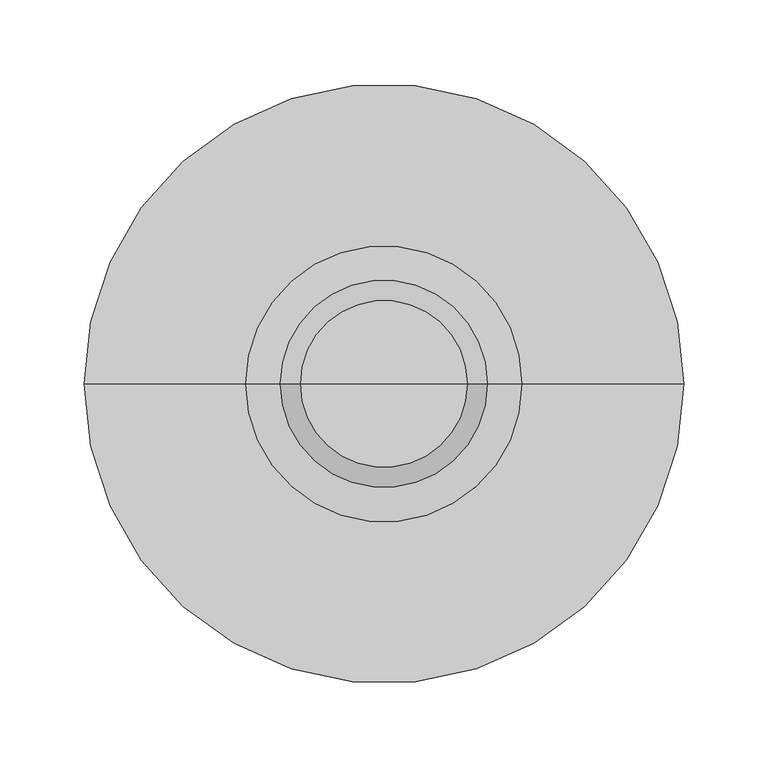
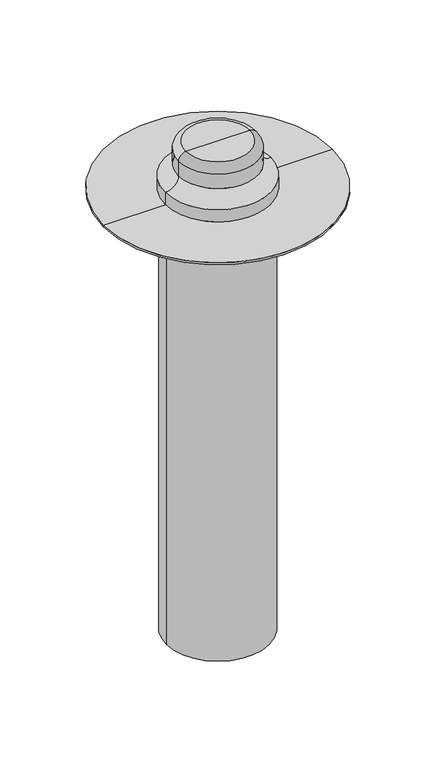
"""IFC4 building model written with IfcOpenShell, lengths in millimetres: flow terminal geometry, BIMLIB_Воронка_Кровельная_Fachmann_VM : 160х720."""

from ifc_helpers import new_model, si_unit, point, frame, origin, origin_with_axes, place, context, project, spatial, polyline, circle_curve, ellipse_curve, trimmed, source, transform, mapped, element, save
from ifc_brep_helpers import plane_surface, cylinder_surface, revolved_surface, advanced_brep


def flow_terminal_46c1b343(model_context):
    return source(origin(), model_context, "Body", "AdvancedBrep", [
        advanced_brep(
        [(80.0, 0.0, -720.0), (-80.0, 0.0, -720.0), (-80.0, 0.0, -57.0), (80.0, 0.0, -57.0), (-113.0, 0.0, -9.0), (113.0, 0.0, -9.0), (113.0, 0.0, -32.0), (-113.0, 0.0, -32.0), (0.0, 0.0, 0.0), (138.0, 0.0, 0.0), (-138.0, 0.0, 0.0), (-90.0, 0.0, -32.0), (90.0, 0.0, -32.0), (90.0, 0.0, -40.0), (-90.0, 0.0, -40.0)],
        [
            (0, 1, circle_curve(frame((0.0, 0.0, -720.0), z_axis=(0.0, 0.0, -1.0), x_axis=(-1.0, 0.0, 0.0)), 80.0)),
            (1, 0, circle_curve(frame((0.0, 0.0, -720.0), z_axis=(0.0, 0.0, -1.0), x_axis=(-1.0, 0.0, 0.0)), 80.0)),
            (1, 2),
            (2, 3, circle_curve(frame((0.0, 0.0, -57.0), z_axis=(0.0, 0.0, -1.0), x_axis=(-1.0, 0.0, 0.0)), 80.0)),
            (3, 0),
            (3, 2, circle_curve(frame((0.0, 0.0, -57.0), z_axis=(0.0, 0.0, -1.0), x_axis=(-1.0, 0.0, 0.0)), 80.0)),
            (4, 5, circle_curve(frame((0.0, 0.0, -9.0), z_axis=(0.0, 0.0, -1.0), x_axis=(1.0, 0.0, 0.0)), 113.0)),
            (5, 6),
            (6, 7, circle_curve(frame((0.0, 0.0, -32.0), z_axis=(0.0, 0.0, 1.0), x_axis=(1.0, 0.0, 0.0)), 113.0)),
            (7, 4),
            (5, 4, circle_curve(frame((0.0, 0.0, -9.0), z_axis=(0.0, 0.0, -1.0), x_axis=(1.0, 0.0, 0.0)), 113.0)),
            (7, 6, circle_curve(frame((0.0, 0.0, -32.0), z_axis=(0.0, 0.0, 1.0), x_axis=(1.0, 0.0, 0.0)), 113.0)),
            (8, 9),
            (9, 10, circle_curve(origin_with_axes(), 138.0)),
            (10, 8),
            (10, 9, circle_curve(origin_with_axes(), 138.0)),
            (4, 10),
            (9, 5),
            (11, 12, circle_curve(frame((0.0, 0.0, -32.0), z_axis=(0.0, 0.0, -1.0), x_axis=(1.0, 0.0, 0.0)), 90.0)),
            (12, 13),
            (13, 14, circle_curve(frame((0.0, 0.0, -40.0), z_axis=(0.0, 0.0, 1.0), x_axis=(1.0, 0.0, 0.0)), 90.0)),
            (14, 11),
            (12, 11, circle_curve(frame((0.0, 0.0, -32.0), z_axis=(0.0, 0.0, -1.0), x_axis=(1.0, 0.0, 0.0)), 90.0)),
            (14, 13, circle_curve(frame((0.0, 0.0, -40.0), z_axis=(0.0, 0.0, 1.0), x_axis=(1.0, 0.0, 0.0)), 90.0)),
            (6, 12),
            (11, 7),
            (13, 3),
            (2, 14),
        ],
        [
            plane_surface(frame((-80.0, 0.0, -720.0), z_axis=(0.0, 0.0, -1.0), x_axis=(0.0, 1.0, 0.0))),
            cylinder_surface(frame((0.0, 0.0, -720.0), z_axis=(0.0, 0.0, 1.0), x_axis=(-1.0, 0.0, 0.0)), 80.0),
            cylinder_surface(frame((0.0, 0.0, 159.0), z_axis=(0.0, 0.0, 1.0), x_axis=(1.0, 0.0, 0.0)), 113.0),
            plane_surface(origin_with_axes()),
            revolved_surface(polyline([(113.0, 0.0, -9.0), (138.0, 0.0, 0.0)]), (0.0, 0.0, 159.0), (0.0, 0.0, 1.0)),
            cylinder_surface(frame((0.0, 0.0, 159.0), z_axis=(0.0, 0.0, 1.0), x_axis=(1.0, 0.0, 0.0)), 90.0),
            plane_surface(frame((0.0, 0.0, -32.0), z_axis=(0.0, 0.0, -1.0), x_axis=(1.0, 0.0, 0.0))),
            revolved_surface(polyline([(80.0, 0.0, -57.0), (90.0, 0.0, -40.0)]), (0.0, 0.0, 159.0), (0.0, 0.0, 1.0)),
        ],
        [
            (0, [[1, 2]]),
            (1, [[-2, 3, 4, 5]]),
            (1, [[-1, -5, 6, -3]]),
            (2, [[7, 8, 9, 10]]),
            (2, [[-8, 11, -10, 12]]),
            (3, [[13, 14, 15]]),
            (3, [[-13, -15, 16]]),
            (4, [[-7, 17, -14, 18]]),
            (4, [[-11, -18, -16, -17]]),
            (5, [[19, 20, 21, 22]]),
            (5, [[-20, 23, -22, 24]]),
            (6, [[-9, 25, -19, 26]]),
            (6, [[-12, -26, -23, -25]]),
            (7, [[-21, 27, -4, 28]]),
            (7, [[-24, -28, -6, -27]]),
        ],
    ),
        advanced_brep(
        [(0.0, 0.0, 79.0), (49.5, 0.0, 79.0), (-49.5, 0.0, 79.0), (-178.0, 0.0, 0.0), (178.0, 0.0, 0.0), (0.0, 0.0, 0.0), (-178.0, 0.0, 3.0), (178.0, 0.0, 3.0), (-82.0, 0.0, 3.0), (82.0, 0.0, 3.0), (-61.5, 0.0, 67.0), (61.5, 0.0, 67.0), (61.5, 0.0, 43.5), (-61.5, 0.0, 43.5), (-82.0, 0.0, 23.0), (82.0, 0.0, 23.0)],
        [
            (0, 1),
            (1, 2, circle_curve(frame((0.0, 0.0, 79.0), z_axis=(0.0, 0.0, 1.0), x_axis=(1.0, 0.0, 0.0)), 49.5)),
            (2, 0),
            (2, 1, circle_curve(frame((0.0, 0.0, 79.0), z_axis=(0.0, 0.0, 1.0), x_axis=(1.0, 0.0, 0.0)), 49.5)),
            (3, 4, circle_curve(frame((0.0, 0.0, 0.0), z_axis=(0.0, 0.0, -1.0), x_axis=(1.0, 0.0, 0.0)), 178.0)),
            (4, 5),
            (5, 3),
            (4, 3, circle_curve(frame((0.0, 0.0, 0.0), z_axis=(0.0, 0.0, -1.0), x_axis=(1.0, 0.0, 0.0)), 178.0)),
            (6, 7, circle_curve(frame((0.0, 0.0, 3.0), z_axis=(0.0, 0.0, -1.0), x_axis=(1.0, 0.0, 0.0)), 178.0)),
            (7, 4),
            (3, 6),
            (7, 6, circle_curve(frame((0.0, 0.0, 3.0), z_axis=(0.0, 0.0, -1.0), x_axis=(1.0, 0.0, 0.0)), 178.0)),
            (8, 9, circle_curve(frame((0.0, 0.0, 3.0), z_axis=(0.0, 0.0, -1.0), x_axis=(1.0, 0.0, 0.0)), 82.0)),
            (9, 7),
            (6, 8),
            (9, 8, circle_curve(frame((0.0, 0.0, 3.0), z_axis=(0.0, 0.0, -1.0), x_axis=(1.0, 0.0, 0.0)), 82.0)),
            (10, 11, circle_curve(frame((0.0, 0.0, 67.0), z_axis=(0.0, 0.0, -1.0), x_axis=(1.0, 0.0, 0.0)), 61.5)),
            (11, 12),
            (12, 13, circle_curve(frame((0.0, 0.0, 43.5), z_axis=(0.0, 0.0, 1.0), x_axis=(1.0, 0.0, 0.0)), 61.5)),
            (13, 10),
            (11, 10, circle_curve(frame((0.0, 0.0, 67.0), z_axis=(0.0, 0.0, -1.0), x_axis=(1.0, 0.0, 0.0)), 61.5)),
            (13, 12, circle_curve(frame((0.0, 0.0, 43.5), z_axis=(0.0, 0.0, 1.0), x_axis=(1.0, 0.0, 0.0)), 61.5)),
            (1, 11, circle_curve(frame((49.5, 0.0, 67.0), z_axis=(0.0, 1.0, 0.0), x_axis=(1.0, 0.0, 0.0)), 12.0)),
            (10, 2, circle_curve(frame((-49.5, 0.0, 67.0), z_axis=(0.0, 1.0, 0.0), x_axis=(-1.0, 0.0, 0.0)), 12.0)),
            (14, 15, circle_curve(frame((0.0, 0.0, 23.0), z_axis=(0.0, 0.0, -1.0), x_axis=(1.0, 0.0, 0.0)), 82.0)),
            (15, 9),
            (8, 14),
            (15, 14, circle_curve(frame((0.0, 0.0, 23.0), z_axis=(0.0, 0.0, -1.0), x_axis=(1.0, 0.0, 0.0)), 82.0)),
            (12, 15, circle_curve(frame((82.0, 0.0, 43.5), z_axis=(0.0, -1.0, 0.0), x_axis=(1.0, 0.0, 0.0)), 20.5)),
            (14, 13, circle_curve(frame((-82.0, 0.0, 43.5), z_axis=(0.0, -1.0, 0.0), x_axis=(-1.0, 0.0, 0.0)), 20.5)),
        ],
        [
            plane_surface(frame((0.0, 0.0, 79.0), z_axis=(0.0, 0.0, 1.0), x_axis=(1.0, 0.0, 0.0))),
            plane_surface(frame((0.0, 0.0, 0.0), z_axis=(0.0, 0.0, -1.0), x_axis=(1.0, 0.0, 0.0))),
            cylinder_surface(frame((0.0, 0.0, 229.0), z_axis=(0.0, 0.0, 1.0), x_axis=(1.0, 0.0, 0.0)), 178.0),
            plane_surface(frame((0.0, 0.0, 3.0), z_axis=(0.0, 0.0, 1.0), x_axis=(1.0, 0.0, 0.0))),
            cylinder_surface(frame((0.0, 0.0, 229.0), z_axis=(0.0, 0.0, 1.0), x_axis=(1.0, 0.0, 0.0)), 61.5),
            revolved_surface(trimmed(ellipse_curve(frame((49.5, 0.0, 67.0), z_axis=(0.0, -1.0, 0.0), x_axis=(1.0, 0.0, 0.0)), 12.0, 12.0), [point((61.5, 0.0, 67.0))], [point((49.5, 0.0, 79.0))], True, "CARTESIAN"), (0.0, 0.0, 229.0), (0.0, 0.0, 1.0)),
            cylinder_surface(frame((0.0, 0.0, 229.0), z_axis=(0.0, 0.0, 1.0), x_axis=(1.0, 0.0, 0.0)), 82.0),
            revolved_surface(trimmed(ellipse_curve(frame((82.0, 0.0, 43.5), z_axis=(0.0, 1.0, 0.0), x_axis=(1.0, 0.0, 0.0)), 20.5, 20.5), [point((82.0, 0.0, 23.0))], [point((61.5, 0.0, 43.5))], True, "CARTESIAN"), (0.0, 0.0, 229.0), (0.0, 0.0, 1.0)),
        ],
        [
            (0, [[1, 2, 3]]),
            (0, [[-3, 4, -1]]),
            (1, [[5, 6, 7]]),
            (1, [[8, -7, -6]]),
            (2, [[9, 10, -5, 11]]),
            (2, [[12, -11, -8, -10]]),
            (3, [[13, 14, -9, 15]]),
            (3, [[16, -15, -12, -14]]),
            (4, [[17, 18, 19, 20]]),
            (4, [[21, -20, 22, -18]]),
            (5, [[-2, 23, -17, 24]]),
            (5, [[-4, -24, -21, -23]]),
            (6, [[25, 26, -13, 27]]),
            (6, [[28, -27, -16, -26]]),
            (7, [[-19, 29, -25, 30]]),
            (7, [[-22, -30, -28, -29]]),
        ],
    ),
    ])


if __name__ == "__main__":
    model = new_model("IFC4")
    model_context = context("Model", 3, world=origin())
    ifc_project = project(units=[si_unit("LENGTHUNIT", "METRE", prefix="MILLI")], contexts=[model_context])
    site = spatial("IfcSite", under=ifc_project)
    building = spatial("IfcBuilding", under=site)
    placement = place(None, origin())
    flow_terminal_shape = flow_terminal_46c1b343(model_context)
    element("IfcFlowTerminal", 1, ObjectType="BIMLIB_Воронка_Кровельная_Fachmann_VM : 160х720", at=placement, inside=building, context=model_context, shape_type="MappedRepresentation", body=[
        mapped(flow_terminal_shape, transform((0.0, 0.0, 0.0), x_axis=(1.0, 0.0, 0.0), y_axis=(0.0, 1.0, 0.0), z_axis=(0.0, 0.0, 1.0))),
    ])
    save(model, "model.ifc")
